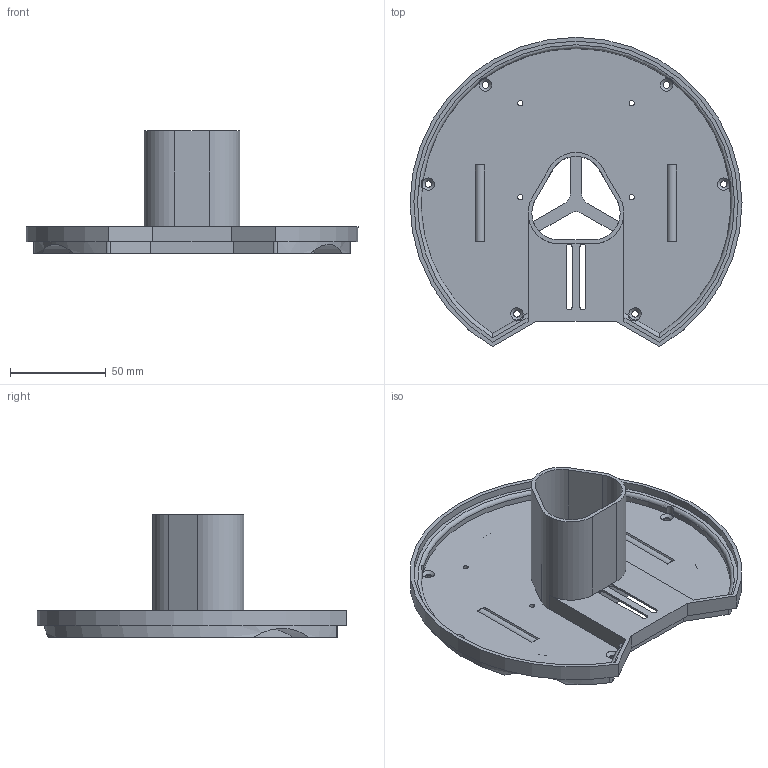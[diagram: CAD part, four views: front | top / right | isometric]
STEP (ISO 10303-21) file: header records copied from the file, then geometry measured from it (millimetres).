
FILE_DESCRIPTION(/* description */ (''),/* implementation_level */ '2;1');
FILE_NAME(/* name */ 'top.step',/* time_stamp */ '2025-05-14T16:45:46+02:00',/* author */ (''),/* organization */ (''),/* preprocessor_version */ 'ST-DEVELOPER v20.1',/* originating_system */ 'Autodesk Translation Framework v14.4.0.0',/* authorisation */ '');
FILE_SCHEMA (('AUTOMOTIVE_DESIGN { 1 0 10303 214 3 1 1 }'));
Length unit declared in the file: millimetre
Products named in the file (1): futbalista 5
Bounding box: 173 x 161.21 x 64 mm (x, y, z)
Volume: 115675.7 mm3; surface area: 77837.2 mm2
Topology: 1 solids, 1 shells, 197 faces, 567 edges, 370 vertices
Faces by surface type: plane 101, cylinder 89, cone 6, torus 1
Full cylindrical faces by diameter (mm): 2.7 x4, 3.4 x6, 5 x2
Entity records: 6743 total; most frequent: CARTESIAN_POINT 1336, DIRECTION 1147, ORIENTED_EDGE 1126, EDGE_CURVE 563, AXIS2_PLACEMENT_3D 397, VERTEX_POINT 368, LINE 353, VECTOR 353
